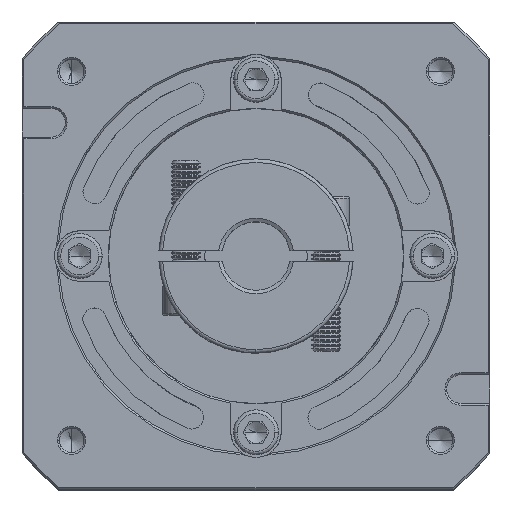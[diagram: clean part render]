
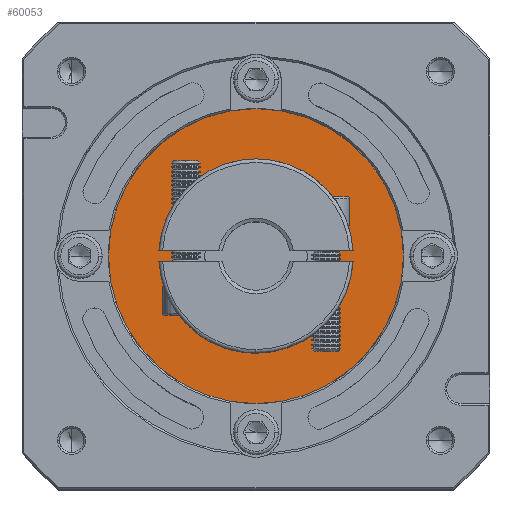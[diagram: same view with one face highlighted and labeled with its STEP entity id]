
A CAD part, top view. The second image highlights one B-rep face of the part: STEP entity #60053.
In plain terms, the highlighted planar face has unit normal (0, 0, 1).
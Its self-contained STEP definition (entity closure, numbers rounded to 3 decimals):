
#787 = DIRECTION ( 'NONE',  ( 1., 0., 0. ) ) ;
#3697 = CIRCLE ( 'NONE', #111431, 41. ) ;
#4842 = ORIENTED_EDGE ( 'NONE', *, *, #96921, .T. ) ;
#5177 = DIRECTION ( 'NONE',  ( 1., 0., 0. ) ) ;
#6118 = ORIENTED_EDGE ( 'NONE', *, *, #43060, .T. ) ;
#14761 = ORIENTED_EDGE ( 'NONE', *, *, #105852, .T. ) ;
#19000 = CARTESIAN_POINT ( 'NONE',  ( 73.051, 102.547, -40.936 ) ) ;
#23576 = CARTESIAN_POINT ( 'NONE',  ( 53.051, 102.547, -40.936 ) ) ;
#24195 = DIRECTION ( 'NONE',  ( 0., 0., -1. ) ) ;
#24839 = CARTESIAN_POINT ( 'NONE',  ( 73.051, 102.547, -40.936 ) ) ;
#25189 = FACE_BOUND ( 'NONE', #51500, .T. ) ;
#30926 = CARTESIAN_POINT ( 'NONE',  ( 114.051, 102.547, -40.936 ) ) ;
#32354 = AXIS2_PLACEMENT_3D ( 'NONE', #19000, #56739, #92374 ) ;
#42466 = DIRECTION ( 'NONE',  ( 0., 0., 1. ) ) ;
#42922 = CARTESIAN_POINT ( 'NONE',  ( 73.051, 102.547, -40.936 ) ) ;
#43060 = EDGE_CURVE ( 'NONE', #65098, #70320, #3697, .T. ) ;
#49590 = FACE_OUTER_BOUND ( 'NONE', #73373, .T. ) ;
#51500 = EDGE_LOOP ( 'NONE', ( #14761, #4842 ) ) ;
#52570 = DIRECTION ( 'NONE',  ( 1., 0., 0. ) ) ;
#56739 = DIRECTION ( 'NONE',  ( 0., 0., 1. ) ) ;
#58749 = AXIS2_PLACEMENT_3D ( 'NONE', #59126, #24195, #60740 ) ;
#59126 = CARTESIAN_POINT ( 'NONE',  ( 73.051, 102.547, -40.936 ) ) ;
#60053 = ADVANCED_FACE ( 'NONE', ( #49590, #25189 ), #97387, .T. ) ;
#60740 = DIRECTION ( 'NONE',  ( 1., 0., 0. ) ) ;
#64573 = CARTESIAN_POINT ( 'NONE',  ( 93.051, 102.547, -40.936 ) ) ;
#65098 = VERTEX_POINT ( 'NONE', #30926 ) ;
#67886 = AXIS2_PLACEMENT_3D ( 'NONE', #42922, #115435, #52570 ) ;
#69320 = CIRCLE ( 'NONE', #32354, 41. ) ;
#70320 = VERTEX_POINT ( 'NONE', #72621 ) ;
#71223 = VERTEX_POINT ( 'NONE', #64573 ) ;
#72621 = CARTESIAN_POINT ( 'NONE',  ( 32.051, 102.547, -40.936 ) ) ;
#73373 = EDGE_LOOP ( 'NONE', ( #6118, #96916 ) ) ;
#83840 = CIRCLE ( 'NONE', #58749, 20. ) ;
#85266 = AXIS2_PLACEMENT_3D ( 'NONE', #24839, #42466, #5177 ) ;
#89485 = EDGE_CURVE ( 'NONE', #70320, #65098, #69320, .T. ) ;
#92374 = DIRECTION ( 'NONE',  ( 1., 0., 0. ) ) ;
#96916 = ORIENTED_EDGE ( 'NONE', *, *, #89485, .T. ) ;
#96921 = EDGE_CURVE ( 'NONE', #97932, #71223, #83840, .T. ) ;
#97387 = PLANE ( 'NONE',  #85266 ) ;
#97932 = VERTEX_POINT ( 'NONE', #23576 ) ;
#100235 = DIRECTION ( 'NONE',  ( 0., 0., 1. ) ) ;
#105852 = EDGE_CURVE ( 'NONE', #71223, #97932, #110183, .T. ) ;
#110183 = CIRCLE ( 'NONE', #67886, 20. ) ;
#110998 = CARTESIAN_POINT ( 'NONE',  ( 73.051, 102.547, -40.936 ) ) ;
#111431 = AXIS2_PLACEMENT_3D ( 'NONE', #110998, #100235, #787 ) ;
#115435 = DIRECTION ( 'NONE',  ( 0., 0., -1. ) ) ;
